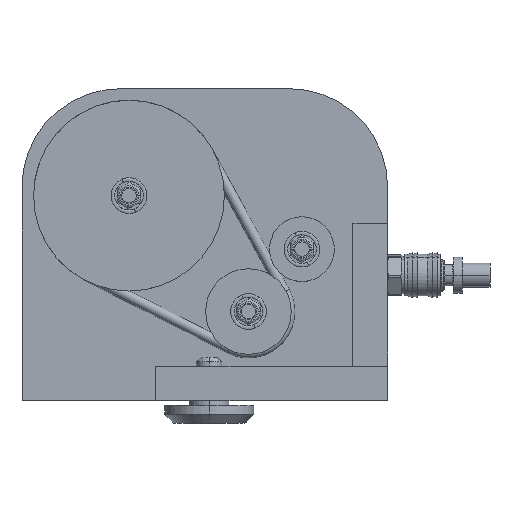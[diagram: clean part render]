
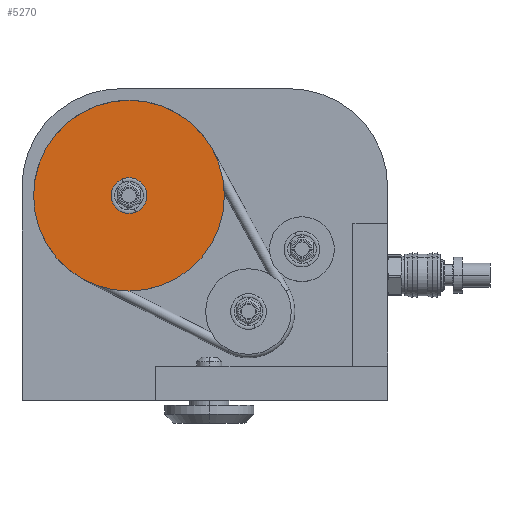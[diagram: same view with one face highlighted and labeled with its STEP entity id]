
A CAD part, top view. The second image highlights one B-rep face of the part: STEP entity #5270.
In plain terms, the highlighted planar face has unit normal (0, 0, 1) as drawn and (1, 0, 0) by its records, which use the part's own axes.
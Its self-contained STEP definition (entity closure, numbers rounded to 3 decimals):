
#69 = EDGE_LOOP ( 'NONE', ( #13683, #7754 ) ) ;
#852 = DIRECTION ( 'NONE',  ( 0., 0., 1. ) ) ;
#1092 = CARTESIAN_POINT ( 'NONE',  ( 7.5, 10., 0. ) ) ;
#1364 = DIRECTION ( 'NONE',  ( -1., 0., 0. ) ) ;
#2841 = CARTESIAN_POINT ( 'NONE',  ( 7.5, 0., -10. ) ) ;
#3343 = CIRCLE ( 'NONE', #15755, 10. ) ;
#3632 = EDGE_LOOP ( 'NONE', ( #5361, #14348 ) ) ;
#3716 = CIRCLE ( 'NONE', #4280, 10. ) ;
#4249 = DIRECTION ( 'NONE',  ( -1., 0., 0. ) ) ;
#4280 = AXIS2_PLACEMENT_3D ( 'NONE', #16570, #8677, #852 ) ;
#5055 = FACE_OUTER_BOUND ( 'NONE', #3632, .T. ) ;
#5270 = ADVANCED_FACE ( 'NONE', ( #5055, #10838 ), #11143, .F. ) ;
#5361 = ORIENTED_EDGE ( 'NONE', *, *, #16868, .F. ) ;
#5481 = VERTEX_POINT ( 'NONE', #13385 ) ;
#7481 = EDGE_CURVE ( 'NONE', #10689, #12793, #11147, .T. ) ;
#7734 = AXIS2_PLACEMENT_3D ( 'NONE', #1092, #8939, #10014 ) ;
#7754 = ORIENTED_EDGE ( 'NONE', *, *, #13275, .T. ) ;
#8132 = VERTEX_POINT ( 'NONE', #2841 ) ;
#8677 = DIRECTION ( 'NONE',  ( -1., 0., 0. ) ) ;
#8753 = CARTESIAN_POINT ( 'NONE',  ( 7.5, 0., 53.5 ) ) ;
#8939 = DIRECTION ( 'NONE',  ( -1., 0., 0. ) ) ;
#9212 = CARTESIAN_POINT ( 'NONE',  ( 7.5, 0., 0. ) ) ;
#10014 = DIRECTION ( 'NONE',  ( 0., 0., 1. ) ) ;
#10566 = DIRECTION ( 'NONE',  ( 0., 0., 1. ) ) ;
#10689 = VERTEX_POINT ( 'NONE', #14801 ) ;
#10838 = FACE_BOUND ( 'NONE', #69, .T. ) ;
#11143 = PLANE ( 'NONE',  #7734 ) ;
#11147 = CIRCLE ( 'NONE', #13559, 53.5 ) ;
#11374 = DIRECTION ( 'NONE',  ( -1., 0., 0. ) ) ;
#11446 = DIRECTION ( 'NONE',  ( 0., 0., 1. ) ) ;
#12118 = CARTESIAN_POINT ( 'NONE',  ( 7.5, 0., 0. ) ) ;
#12793 = VERTEX_POINT ( 'NONE', #8753 ) ;
#13275 = EDGE_CURVE ( 'NONE', #8132, #5481, #3716, .T. ) ;
#13385 = CARTESIAN_POINT ( 'NONE',  ( 7.5, 0., 10. ) ) ;
#13459 = DIRECTION ( 'NONE',  ( 0., 0., 1. ) ) ;
#13559 = AXIS2_PLACEMENT_3D ( 'NONE', #14037, #11374, #11446 ) ;
#13683 = ORIENTED_EDGE ( 'NONE', *, *, #14961, .T. ) ;
#13937 = AXIS2_PLACEMENT_3D ( 'NONE', #9212, #1364, #10566 ) ;
#14037 = CARTESIAN_POINT ( 'NONE',  ( 7.5, 0., 0. ) ) ;
#14178 = CIRCLE ( 'NONE', #13937, 53.5 ) ;
#14348 = ORIENTED_EDGE ( 'NONE', *, *, #7481, .F. ) ;
#14801 = CARTESIAN_POINT ( 'NONE',  ( 7.5, 0., -53.5 ) ) ;
#14961 = EDGE_CURVE ( 'NONE', #5481, #8132, #3343, .T. ) ;
#15755 = AXIS2_PLACEMENT_3D ( 'NONE', #12118, #4249, #13459 ) ;
#16570 = CARTESIAN_POINT ( 'NONE',  ( 7.5, 0., 0. ) ) ;
#16868 = EDGE_CURVE ( 'NONE', #12793, #10689, #14178, .T. ) ;
